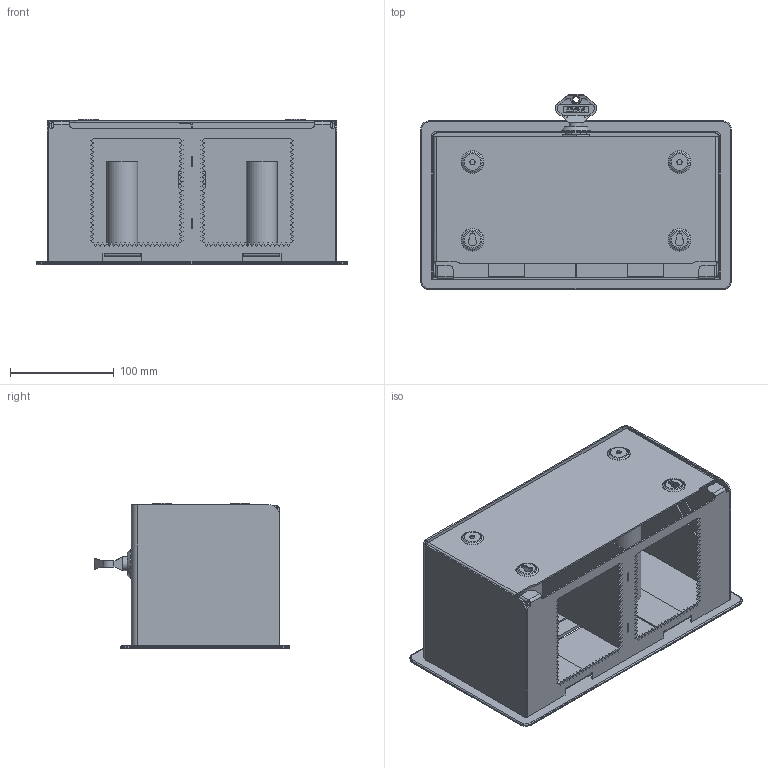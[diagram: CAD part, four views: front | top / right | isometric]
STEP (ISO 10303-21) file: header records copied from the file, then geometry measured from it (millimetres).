
FILE_DESCRIPTION(/* description */ (''),/* implementation_level */ '2;1');
FILE_NAME(/* name */ 'X:\Standardvarer\4070 DAN DRYER LOKI toilet paper dispenser 2R\Tegninger\Public 3D files\407x DAN DRYER LOKI toilet paper dispenser 2R.stp',/* time_stamp */ '2020-09-28T15:04:21+02:00',/* author */ ('Dan Dryer'),/* organization */ (''),/* preprocessor_version */ 'ST-DEVELOPER v16.1',/* originating_system */ 'Autodesk Inventor 2016',/* authorisation */ '');
FILE_SCHEMA (('AUTOMOTIVE_DESIGN { 1 0 10303 214 3 1 1 }'));
Length unit declared in the file: millimetre
Products named in the file (17): 67410-10; 67110-12; 67410; 67400-10; 67400-11; 67400-12; 67400-13; 67400-14; 67400-15; M6; Viking logo i streg 24x9 - tykke streger til brug i Inventor; 67400; 28200-1; 28202; 28200-2; 28200; 4070 DAN DRYER LOKI toilet paper dispenser 2R
Assembly tree (19 placements, depth 3):
  4070 DAN DRYER LOKI toilet paper dispenser 2R
    67410
      67410-10
      67110-12
    67400
      67400-10
      67400-11
      67400-12
      67400-13  x2
      67400-14
      67400-15  x2
      M6  x2
      Viking logo i streg 24x9 - tykke streger til brug i Inventor
    28200
      28200-2
      28200-1
    28202
Bounding box: 300 x 188.5 x 140.6 mm (x, y, z)
Volume: 410980.2 mm3; surface area: 470073.4 mm2
Topology: 26 solids, 27 shells, 1196 faces, 3236 edges, 2114 vertices
Faces by surface type: plane 937, cylinder 203, torus 25, cone 23, bspline 8
Full cylindrical faces by diameter (mm): 4.2 x2, 4.917 x2, 5 x4, 6 x3, 10 x1, 13.5 x1, 16.1 x1, 19.8 x1, 20 x1, 22 x1, 28 x3, 30 x2
Entity records: 38932 total; most frequent: CARTESIAN_POINT 8558, ORIENTED_EDGE 6281, DIRECTION 5904, EDGE_CURVE 3142, LINE 2634, VECTOR 2634, VERTEX_POINT 2082, AXIS2_PLACEMENT_3D 1635
